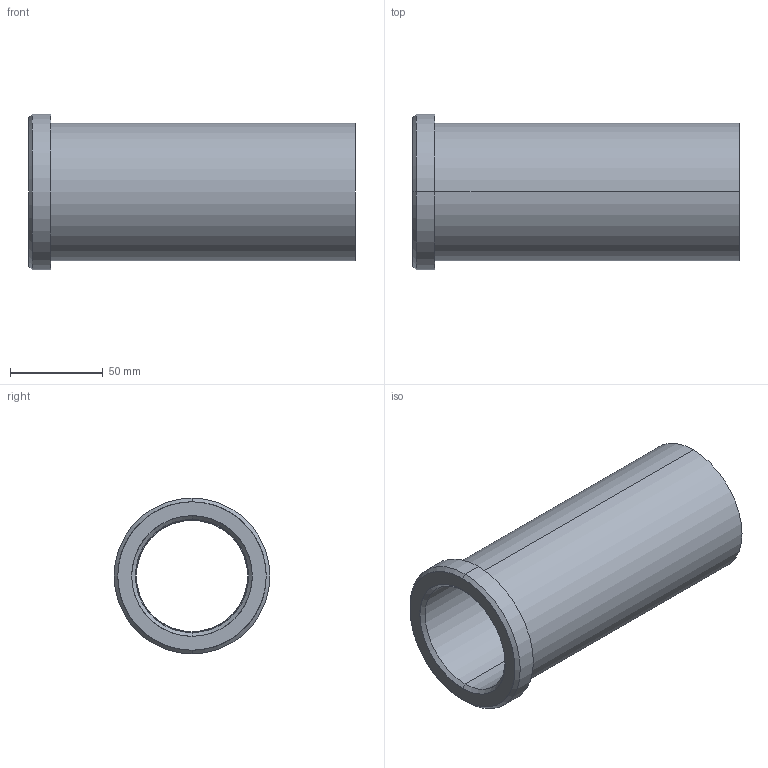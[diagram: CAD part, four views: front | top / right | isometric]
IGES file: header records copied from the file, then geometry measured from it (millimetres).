
Start section: START RECORD GO HERE.
Global section: file name: 353-60X176.igs; native system: DASSAULT SYSTEMES CATIA V5 R20 - www.3ds.com; preprocessor: CATIA Version 5 Release 20 ; author: Utente; organization: NB04-ASUS; date: 20210514.195538; units: millimetre
Bounding box: 176 x 84 x 84 mm (x, y, z)
Surface area: 79300.5 mm2 (no closed solid volume)
Topology: 0 solids, 0 shells, 18 faces, 116 edges, 116 vertices
Faces by surface type: revolution 14, plane 4
